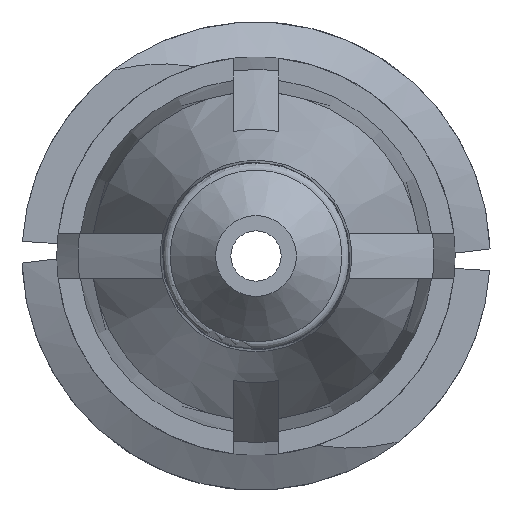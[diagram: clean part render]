
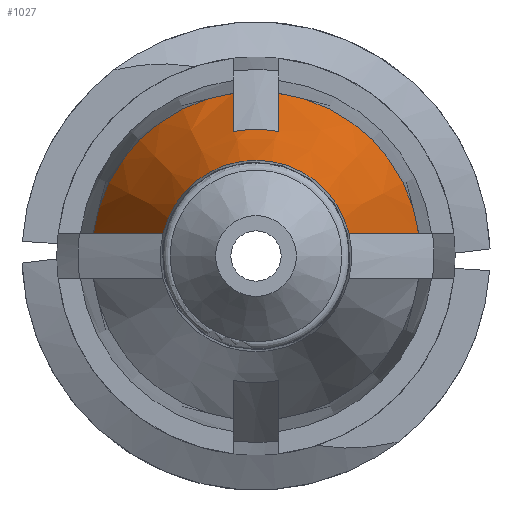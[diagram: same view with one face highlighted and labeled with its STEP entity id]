
A CAD part, front view. The second image highlights one B-rep face of the part: STEP entity #1027.
In plain terms, the highlighted conical face has half-angle 20 degrees and reference radius 2.745 mm.
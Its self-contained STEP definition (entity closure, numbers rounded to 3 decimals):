
#5 = CIRCLE ( 'NONE', #1743, 1.6 ) ;
#31 = DIRECTION ( 'NONE',  ( 0., 1., 0. ) ) ;
#52 = CARTESIAN_POINT ( 'NONE',  ( -0.381, -10.312, 2.719 ) ) ;
#61 = VERTEX_POINT ( 'NONE', #98 ) ;
#72 = EDGE_CURVE ( 'NONE', #61, #1919, #1099, .T. ) ;
#82 = CARTESIAN_POINT ( 'NONE',  ( -0.381, -10.888, 2.507 ) ) ;
#98 = CARTESIAN_POINT ( 'NONE',  ( -2.719, -10.312, 0.381 ) ) ;
#120 = ORIENTED_EDGE ( 'NONE', *, *, #178, .T. ) ;
#178 = EDGE_CURVE ( 'NONE', #1854, #623, #1783, .T. ) ;
#188 = CARTESIAN_POINT ( 'NONE',  ( 1.947, -12.411, 0.381 ) ) ;
#209 = AXIS2_PLACEMENT_3D ( 'NONE', #1896, #1071, #259 ) ;
#217 = CARTESIAN_POINT ( 'NONE',  ( -1.554, -13.458, 0.381 ) ) ;
#239 = CIRCLE ( 'NONE', #209, 2.745 ) ;
#259 = DIRECTION ( 'NONE',  ( 1., 0., 0. ) ) ;
#373 = DIRECTION ( 'NONE',  ( 1., 0., 0. ) ) ;
#418 = DIRECTION ( 'NONE',  ( -1., 0., 0. ) ) ;
#423 = DIRECTION ( 'NONE',  ( 1., 0., 0. ) ) ;
#522 = ORIENTED_EDGE ( 'NONE', *, *, #1955, .T. ) ;
#529 = CARTESIAN_POINT ( 'NONE',  ( -1.947, -12.411, 0.381 ) ) ;
#572 = CARTESIAN_POINT ( 'NONE',  ( -2.719, -10.312, 0.381 ) ) ;
#591 = CARTESIAN_POINT ( 'NONE',  ( -0.381, -10.312, 2.719 ) ) ;
#599 = CARTESIAN_POINT ( 'NONE',  ( 0.381, -10.312, 2.719 ) ) ;
#610 = CARTESIAN_POINT ( 'NONE',  ( 1.554, -13.458, 0.381 ) ) ;
#623 = VERTEX_POINT ( 'NONE', #1069 ) ;
#658 = EDGE_LOOP ( 'NONE', ( #841, #1452, #522, #120, #829, #1697, #945, #1120 ) ) ;
#689 = AXIS2_PLACEMENT_3D ( 'NONE', #727, #1228, #418 ) ;
#697 = B_SPLINE_CURVE_WITH_KNOTS ( 'NONE', 3,
 ( #1730, #1545, #82, #591 ),
 .UNSPECIFIED., .F., .F.,
 ( 4, 4 ),
 ( 0.002, 0.004 ),
 .UNSPECIFIED. ) ;
#727 = CARTESIAN_POINT ( 'NONE',  ( 0., -12.038, 0. ) ) ;
#751 = B_SPLINE_CURVE_WITH_KNOTS ( 'NONE', 3,
 ( #1831, #1010, #188, #1980 ),
 .UNSPECIFIED., .F., .F.,
 ( 4, 4 ),
 ( 0.003, 0.007 ),
 .UNSPECIFIED. ) ;
#829 = ORIENTED_EDGE ( 'NONE', *, *, #1093, .T. ) ;
#841 = ORIENTED_EDGE ( 'NONE', *, *, #1271, .F. ) ;
#846 = DIRECTION ( 'NONE',  ( 1., 0., 0. ) ) ;
#888 = FACE_OUTER_BOUND ( 'NONE', #658, .T. ) ;
#945 = ORIENTED_EDGE ( 'NONE', *, *, #72, .T. ) ;
#1010 = CARTESIAN_POINT ( 'NONE',  ( 2.333, -11.362, 0.381 ) ) ;
#1022 = VERTEX_POINT ( 'NONE', #1043 ) ;
#1027 = ADVANCED_FACE ( 'NONE', ( #888 ), #1810, .T. ) ;
#1043 = CARTESIAN_POINT ( 'NONE',  ( 0.381, -10.312, 2.719 ) ) ;
#1064 = CARTESIAN_POINT ( 'NONE',  ( 0., -10.312, 0. ) ) ;
#1069 = CARTESIAN_POINT ( 'NONE',  ( -0.381, -12.038, 2.082 ) ) ;
#1071 = DIRECTION ( 'NONE',  ( 0., 1., 0. ) ) ;
#1093 = EDGE_CURVE ( 'NONE', #623, #1917, #697, .T. ) ;
#1099 = B_SPLINE_CURVE_WITH_KNOTS ( 'NONE', 3,
 ( #572, #1852, #529, #1207 ),
 .UNSPECIFIED., .F., .F.,
 ( 4, 4 ),
 ( 0.003, 0.007 ),
 .UNSPECIFIED. ) ;
#1106 = B_SPLINE_CURVE_WITH_KNOTS ( 'NONE', 3,
 ( #599, #1898, #1708, #1739 ),
 .UNSPECIFIED., .F., .F.,
 ( 4, 4 ),
 ( 0.003, 0.005 ),
 .UNSPECIFIED. ) ;
#1108 = CARTESIAN_POINT ( 'NONE',  ( 0.381, -12.038, 2.082 ) ) ;
#1120 = ORIENTED_EDGE ( 'NONE', *, *, #1363, .T. ) ;
#1193 = CIRCLE ( 'NONE', #2004, 2.745 ) ;
#1207 = CARTESIAN_POINT ( 'NONE',  ( -1.554, -13.458, 0.381 ) ) ;
#1212 = VERTEX_POINT ( 'NONE', #610 ) ;
#1228 = DIRECTION ( 'NONE',  ( 0., -1., 0. ) ) ;
#1271 = EDGE_CURVE ( 'NONE', #1274, #1212, #751, .T. ) ;
#1274 = VERTEX_POINT ( 'NONE', #1358 ) ;
#1340 = DIRECTION ( 'NONE',  ( 0., 1., 0. ) ) ;
#1350 = EDGE_CURVE ( 'NONE', #61, #1917, #1193, .T. ) ;
#1358 = CARTESIAN_POINT ( 'NONE',  ( 2.719, -10.312, 0.381 ) ) ;
#1363 = EDGE_CURVE ( 'NONE', #1919, #1212, #5, .T. ) ;
#1452 = ORIENTED_EDGE ( 'NONE', *, *, #1499, .F. ) ;
#1477 = AXIS2_PLACEMENT_3D ( 'NONE', #1064, #2063, #423 ) ;
#1499 = EDGE_CURVE ( 'NONE', #1022, #1274, #239, .T. ) ;
#1545 = CARTESIAN_POINT ( 'NONE',  ( -0.381, -11.463, 2.295 ) ) ;
#1686 = CARTESIAN_POINT ( 'NONE',  ( 0., -13.458, 0. ) ) ;
#1697 = ORIENTED_EDGE ( 'NONE', *, *, #1350, .F. ) ;
#1708 = CARTESIAN_POINT ( 'NONE',  ( 0.381, -11.463, 2.295 ) ) ;
#1730 = CARTESIAN_POINT ( 'NONE',  ( -0.381, -12.038, 2.082 ) ) ;
#1739 = CARTESIAN_POINT ( 'NONE',  ( 0.381, -12.038, 2.082 ) ) ;
#1743 = AXIS2_PLACEMENT_3D ( 'NONE', #1686, #31, #846 ) ;
#1783 = CIRCLE ( 'NONE', #689, 2.117 ) ;
#1810 = CONICAL_SURFACE ( 'NONE', #1477, 2.745, 0.349 ) ;
#1824 = CARTESIAN_POINT ( 'NONE',  ( 0., -10.312, 0. ) ) ;
#1831 = CARTESIAN_POINT ( 'NONE',  ( 2.719, -10.312, 0.381 ) ) ;
#1852 = CARTESIAN_POINT ( 'NONE',  ( -2.333, -11.362, 0.381 ) ) ;
#1854 = VERTEX_POINT ( 'NONE', #1108 ) ;
#1896 = CARTESIAN_POINT ( 'NONE',  ( 0., -10.312, 0. ) ) ;
#1898 = CARTESIAN_POINT ( 'NONE',  ( 0.381, -10.888, 2.507 ) ) ;
#1917 = VERTEX_POINT ( 'NONE', #52 ) ;
#1919 = VERTEX_POINT ( 'NONE', #217 ) ;
#1955 = EDGE_CURVE ( 'NONE', #1022, #1854, #1106, .T. ) ;
#1980 = CARTESIAN_POINT ( 'NONE',  ( 1.554, -13.458, 0.381 ) ) ;
#2004 = AXIS2_PLACEMENT_3D ( 'NONE', #1824, #1340, #373 ) ;
#2063 = DIRECTION ( 'NONE',  ( 0., 1., 0. ) ) ;
